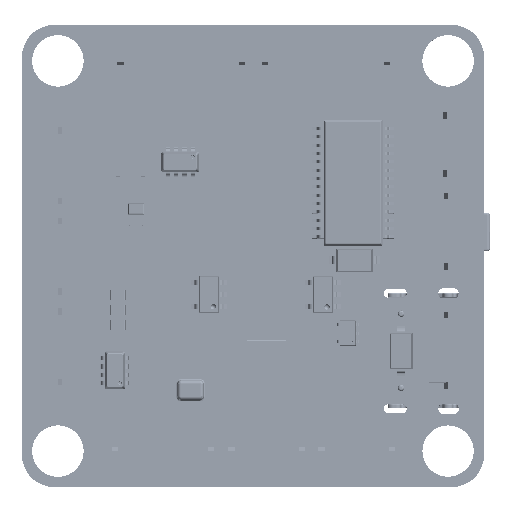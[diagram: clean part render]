
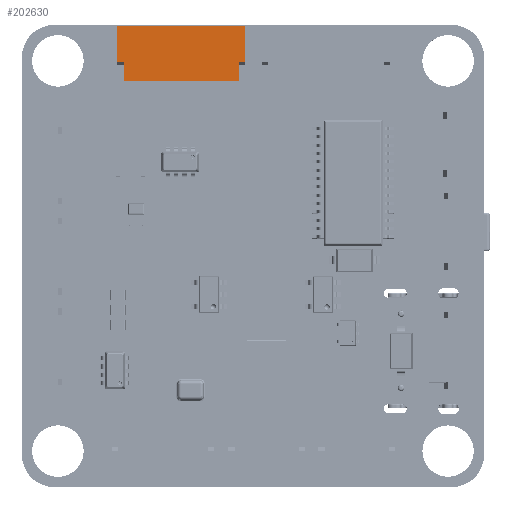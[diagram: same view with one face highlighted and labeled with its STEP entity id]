
A CAD part, top view. The second image highlights one B-rep face of the part: STEP entity #202630.
In plain terms, the highlighted planar face has unit normal (0, 0, 1) as drawn and (0, 1, 0) by its records, which use the part's own axes.
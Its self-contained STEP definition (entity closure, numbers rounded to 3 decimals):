
#201847 = VERTEX_POINT('',#201848);
#201848 = CARTESIAN_POINT('',(5.,3.255,3.895));
#201854 = EDGE_CURVE('',#201855,#201847,#201857,.T.);
#201855 = VERTEX_POINT('',#201856);
#201856 = CARTESIAN_POINT('',(-5.,3.255,3.895));
#201857 = LINE('',#201858,#201859);
#201858 = CARTESIAN_POINT('',(-5.,3.255,3.895));
#201859 = VECTOR('',#201860,1.);
#201860 = DIRECTION('',(1.,0.,0.));
#202630 = ADVANCED_FACE('',(#202631),#202688,.F.);
#202631 = FACE_BOUND('',#202632,.T.);
#202632 = EDGE_LOOP('',(#202633,#202643,#202649,#202650,#202658,#202666,
    #202674,#202682));
#202633 = ORIENTED_EDGE('',*,*,#202634,.T.);
#202634 = EDGE_CURVE('',#202635,#202637,#202639,.T.);
#202635 = VERTEX_POINT('',#202636);
#202636 = CARTESIAN_POINT('',(-4.5,3.255,1.134));
#202637 = VERTEX_POINT('',#202638);
#202638 = CARTESIAN_POINT('',(-5.,3.255,1.134));
#202639 = LINE('',#202640,#202641);
#202640 = CARTESIAN_POINT('',(-4.5,3.255,1.134));
#202641 = VECTOR('',#202642,1.);
#202642 = DIRECTION('',(-1.,0.,0.));
#202643 = ORIENTED_EDGE('',*,*,#202644,.T.);
#202644 = EDGE_CURVE('',#202637,#201855,#202645,.T.);
#202645 = LINE('',#202646,#202647);
#202646 = CARTESIAN_POINT('',(-5.,3.255,-0.355));
#202647 = VECTOR('',#202648,1.);
#202648 = DIRECTION('',(0.,0.,1.));
#202649 = ORIENTED_EDGE('',*,*,#201854,.T.);
#202650 = ORIENTED_EDGE('',*,*,#202651,.T.);
#202651 = EDGE_CURVE('',#201847,#202652,#202654,.T.);
#202652 = VERTEX_POINT('',#202653);
#202653 = CARTESIAN_POINT('',(5.,3.255,1.134));
#202654 = LINE('',#202655,#202656);
#202655 = CARTESIAN_POINT('',(5.,3.255,-0.355));
#202656 = VECTOR('',#202657,1.);
#202657 = DIRECTION('',(0.,0.,-1.));
#202658 = ORIENTED_EDGE('',*,*,#202659,.F.);
#202659 = EDGE_CURVE('',#202660,#202652,#202662,.T.);
#202660 = VERTEX_POINT('',#202661);
#202661 = CARTESIAN_POINT('',(4.5,3.255,1.134));
#202662 = LINE('',#202663,#202664);
#202663 = CARTESIAN_POINT('',(4.5,3.255,1.134));
#202664 = VECTOR('',#202665,1.);
#202665 = DIRECTION('',(1.,0.,0.));
#202666 = ORIENTED_EDGE('',*,*,#202667,.F.);
#202667 = EDGE_CURVE('',#202668,#202660,#202670,.T.);
#202668 = VERTEX_POINT('',#202669);
#202669 = CARTESIAN_POINT('',(4.5,3.255,-0.355));
#202670 = LINE('',#202671,#202672);
#202671 = CARTESIAN_POINT('',(4.5,3.255,0.195));
#202672 = VECTOR('',#202673,1.);
#202673 = DIRECTION('',(0.,0.,1.));
#202674 = ORIENTED_EDGE('',*,*,#202675,.T.);
#202675 = EDGE_CURVE('',#202668,#202676,#202678,.T.);
#202676 = VERTEX_POINT('',#202677);
#202677 = CARTESIAN_POINT('',(-4.5,3.255,-0.355));
#202678 = LINE('',#202679,#202680);
#202679 = CARTESIAN_POINT('',(5.,3.255,-0.355));
#202680 = VECTOR('',#202681,1.);
#202681 = DIRECTION('',(-1.,0.,0.));
#202682 = ORIENTED_EDGE('',*,*,#202683,.T.);
#202683 = EDGE_CURVE('',#202676,#202635,#202684,.T.);
#202684 = LINE('',#202685,#202686);
#202685 = CARTESIAN_POINT('',(-4.5,3.255,1.134));
#202686 = VECTOR('',#202687,1.);
#202687 = DIRECTION('',(0.,0.,1.));
#202688 = PLANE('',#202689);
#202689 = AXIS2_PLACEMENT_3D('',#202690,#202691,#202692);
#202690 = CARTESIAN_POINT('',(-5.,3.255,-0.355));
#202691 = DIRECTION('',(0.,-1.,0.));
#202692 = DIRECTION('',(1.,0.,0.));
